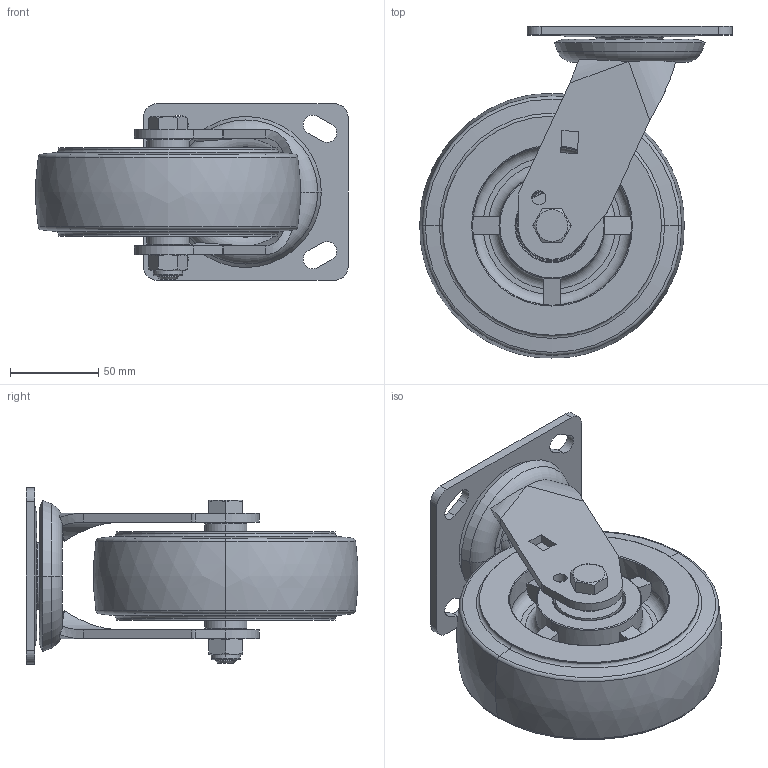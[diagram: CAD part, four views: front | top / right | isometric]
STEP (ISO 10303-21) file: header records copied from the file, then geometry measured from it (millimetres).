
FILE_DESCRIPTION((''),'2;1');
FILE_NAME('S75716_ASM','2026-07-17T',('Lenovo'),(''),'PRO/ENGINEER BY PARAMETRIC TECHNOLOGY CORPORATION, 2010280','PRO/ENGINEER BY PARAMETRIC TECHNOLOGY CORPORATION, 2010280','');
FILE_SCHEMA(('CONFIG_CONTROL_DESIGN'));
Length unit declared in the file: millimetre
Products named in the file (11): S7506-353; S7570-201; S7500-211; 736-986; 6203; 700-67; 700-54; 736-86_ASM; 700-33; 700-34; S75716_ASM
Assembly tree (12 placements, depth 3):
  S75716_ASM
    S7506-353
    S7570-201
    S7500-211
    736-86_ASM
      736-986
      6203  x2
      700-67  x2
      700-54
    700-33
    700-34
Bounding box: 176.83 x 187.83 x 100 mm (x, y, z)
Volume: 847552.3 mm3; surface area: 172361.8 mm2
Topology: 38 solids, 38 shells, 434 faces, 1029 edges, 594 vertices
Faces by surface type: plane 129, cylinder 111, torus 90, sphere 48, cone 46, bspline 10
Entity records: 11337 total; most frequent: CARTESIAN_POINT 2672, DIRECTION 1907, ORIENTED_EDGE 1650, EDGE_CURVE 825, AXIS2_PLACEMENT_3D 791, VERTEX_POINT 520, EDGE_LOOP 421, CIRCLE 404
